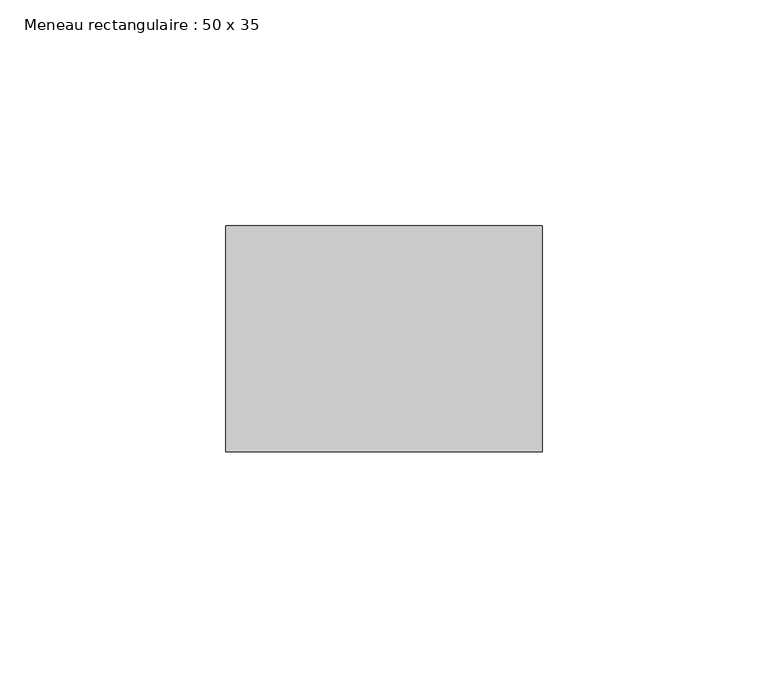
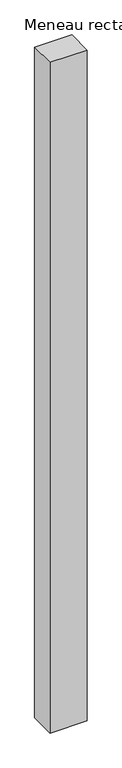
"""IFC4 building model written with IfcOpenShell, lengths in millimetres: member geometry, Meneau rectangulaire : 50 x 35."""

from ifc_helpers import new_model, si_unit, frame, origin, place, context, project, spatial, polyline, outline, extrude, source, transform, mapped, element, save


def meneau_rectangulaire_50_x_35_1d43df53(model_context):
    return source(origin(), model_context, "Body", "SweptSolid", [
        extrude(outline(polyline([(0.0, 0.0), (0.0, -50.0), (-70.0, -50.0), (-70.0, 0.0), (0.0, 0.0)])), frame((0.0, 0.0, -1335.6442441), z_axis=(0.0, 0.0, 1.0), x_axis=(1.0, 0.0, 0.0)), (0.0, 0.0, 1.0), 1335.6442441),
    ])


if __name__ == "__main__":
    model = new_model("IFC4")
    model_context = context("Model", 3, world=origin())
    ifc_project = project(units=[si_unit("LENGTHUNIT", "METRE", prefix="MILLI")], contexts=[model_context])
    site = spatial("IfcSite", under=ifc_project)
    building = spatial("IfcBuilding", under=site)
    placement = place(None, origin())
    meneau_rectangulaire_50_x_35_shape = meneau_rectangulaire_50_x_35_1d43df53(model_context)
    element("IfcMember", 1, ObjectType="Meneau rectangulaire : 50 x 35", at=placement, inside=building, context=model_context, shape_type="MappedRepresentation", body=[
        mapped(meneau_rectangulaire_50_x_35_shape, transform((0.0, 0.0, 0.0), x_axis=(1.0, 0.0, 0.0), y_axis=(0.0, 1.0, 0.0), z_axis=(0.0, 0.0, 1.0))),
    ])
    save(model, "model.ifc")
